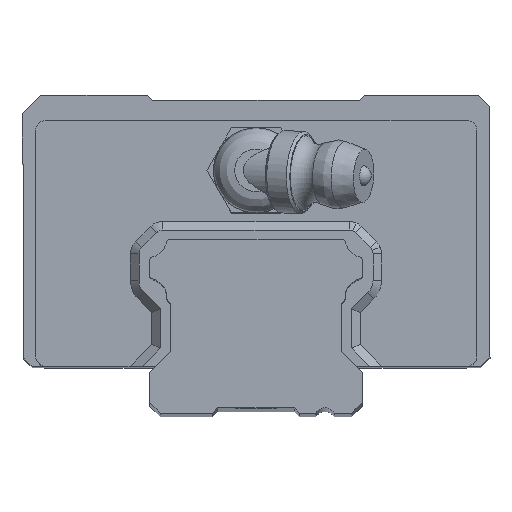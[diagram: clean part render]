
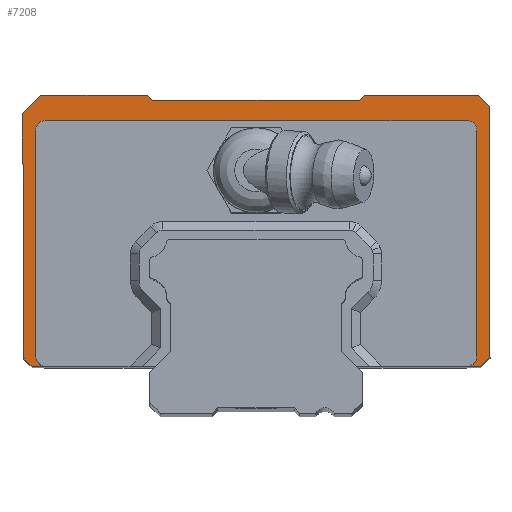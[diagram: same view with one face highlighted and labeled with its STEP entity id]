
A CAD part, top view. The second image highlights one B-rep face of the part: STEP entity #7208.
In plain terms, the highlighted planar face has unit normal (0, 0, 1).
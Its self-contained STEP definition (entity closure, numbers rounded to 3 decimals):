
#5872=CARTESIAN_POINT('',(493.991,-337.625,38.25));
#5873=VERTEX_POINT('',#5872);
#5945=CARTESIAN_POINT('',(458.875,-337.625,38.25));
#5946=VERTEX_POINT('',#5945);
#6535=CARTESIAN_POINT('',(494.859,-336.726,38.25));
#6536=VERTEX_POINT('',#6535);
#6537=CARTESIAN_POINT('',(493.959,-336.726,38.25));
#6538=DIRECTION('',(0.0,0.0,-1.));
#6539=DIRECTION('',(-1.,0.,0.0));
#6540=AXIS2_PLACEMENT_3D('',#6537,#6538,#6539);
#6541=CIRCLE('',#6540,0.9);
#6542=EDGE_CURVE('',#6536,#5873,#6541,.T.);
#6559=CARTESIAN_POINT('',(494.86,-315.426,38.25));
#6560=VERTEX_POINT('',#6559);
#6567=CARTESIAN_POINT('',(493.96,-314.526,38.25));
#6568=VERTEX_POINT('',#6567);
#6569=CARTESIAN_POINT('',(493.96,-315.426,38.25));
#6570=DIRECTION('',(0.0,0.0,-1.));
#6571=DIRECTION('',(-1.,0.,0.0));
#6572=AXIS2_PLACEMENT_3D('',#6569,#6570,#6571);
#6573=CIRCLE('',#6572,0.9);
#6574=EDGE_CURVE('',#6568,#6560,#6573,.T.);
#6591=CARTESIAN_POINT('',(454.31,-314.525,38.25));
#6592=VERTEX_POINT('',#6591);
#6599=CARTESIAN_POINT('',(453.41,-315.425,38.25));
#6600=VERTEX_POINT('',#6599);
#6601=CARTESIAN_POINT('',(454.31,-315.425,38.25));
#6602=DIRECTION('',(0.0,0.0,-1.));
#6603=DIRECTION('',(-1.,0.,0.0));
#6604=AXIS2_PLACEMENT_3D('',#6601,#6602,#6603);
#6605=CIRCLE('',#6604,0.9);
#6606=EDGE_CURVE('',#6600,#6592,#6605,.T.);
#6623=CARTESIAN_POINT('',(453.409,-336.725,38.25));
#6624=VERTEX_POINT('',#6623);
#6631=CARTESIAN_POINT('',(454.309,-337.625,38.25));
#6632=VERTEX_POINT('',#6631);
#6633=CARTESIAN_POINT('',(454.309,-336.725,38.25));
#6634=DIRECTION('',(0.0,0.0,-1.));
#6635=DIRECTION('',(-1.,0.,0.0));
#6636=AXIS2_PLACEMENT_3D('',#6633,#6634,#6635);
#6637=CIRCLE('',#6636,0.9);
#6638=EDGE_CURVE('',#6632,#6624,#6637,.T.);
#6882=CARTESIAN_POINT('',(494.86,-315.426,38.25));
#6883=DIRECTION('',(0.,-1.,0.0));
#6884=VECTOR('',#6883,21.3);
#6885=LINE('',#6882,#6884);
#6886=EDGE_CURVE('',#6560,#6536,#6885,.T.);
#6902=CARTESIAN_POINT('',(454.31,-314.525,38.25));
#6903=DIRECTION('',(1.,0.,0.));
#6904=VECTOR('',#6903,39.65);
#6905=LINE('',#6902,#6904);
#6906=EDGE_CURVE('',#6592,#6568,#6905,.T.);
#6921=CARTESIAN_POINT('',(453.409,-336.725,38.25));
#6922=DIRECTION('',(0.,1.,0.0));
#6923=VECTOR('',#6922,21.3);
#6924=LINE('',#6921,#6923);
#6925=EDGE_CURVE('',#6624,#6600,#6924,.T.);
#6948=CARTESIAN_POINT('',(458.875,-337.625,38.25));
#6949=DIRECTION('',(-1.,0.,0.));
#6950=VECTOR('',#6949,4.566);
#6951=LINE('',#6948,#6950);
#6952=EDGE_CURVE('',#5946,#6632,#6951,.T.);
#7075=CARTESIAN_POINT('',(474.109,-364.573,38.25));
#7076=DIRECTION('',(0.0,0.0,1.0));
#7077=DIRECTION('',(1.0,0.0,0.0));
#7078=AXIS2_PLACEMENT_3D('',#7075,#7076,#7077);
#7079=PLANE('',#7078);
#7080=ORIENTED_EDGE('',*,*,#6542,.T.);
#7081=CARTESIAN_POINT('',(495.259,-337.625,38.25));
#7082=VERTEX_POINT('',#7081);
#7083=CARTESIAN_POINT('',(493.991,-337.625,38.25));
#7084=DIRECTION('',(1.0,0.0,0.0));
#7085=VECTOR('',#7084,1.268);
#7086=LINE('',#7083,#7085);
#7087=EDGE_CURVE('',#5873,#7082,#7086,.T.);
#7088=ORIENTED_EDGE('',*,*,#7087,.T.);
#7089=CARTESIAN_POINT('',(496.109,-336.775,38.25));
#7090=VERTEX_POINT('',#7089);
#7091=CARTESIAN_POINT('',(495.259,-337.625,38.25));
#7092=DIRECTION('',(0.707,0.707,0.0));
#7093=VECTOR('',#7092,1.202);
#7094=LINE('',#7091,#7093);
#7095=EDGE_CURVE('',#7082,#7090,#7094,.T.);
#7096=ORIENTED_EDGE('',*,*,#7095,.T.);
#7097=CARTESIAN_POINT('',(496.109,-313.175,38.25));
#7098=VERTEX_POINT('',#7097);
#7099=CARTESIAN_POINT('',(496.109,-336.775,38.25));
#7100=DIRECTION('',(0.0,1.0,0.0));
#7101=VECTOR('',#7100,23.6);
#7102=LINE('',#7099,#7101);
#7103=EDGE_CURVE('',#7090,#7098,#7102,.T.);
#7104=ORIENTED_EDGE('',*,*,#7103,.T.);
#7105=CARTESIAN_POINT('',(495.059,-312.125,38.25));
#7106=VERTEX_POINT('',#7105);
#7107=CARTESIAN_POINT('',(496.109,-313.175,38.25));
#7108=DIRECTION('',(-0.707,0.707,0.0));
#7109=VECTOR('',#7108,1.485);
#7110=LINE('',#7107,#7109);
#7111=EDGE_CURVE('',#7098,#7106,#7110,.T.);
#7112=ORIENTED_EDGE('',*,*,#7111,.T.);
#7113=CARTESIAN_POINT('',(484.309,-312.125,38.25));
#7114=VERTEX_POINT('',#7113);
#7115=CARTESIAN_POINT('',(495.059,-312.125,38.25));
#7116=DIRECTION('',(-1.,0.,0.0));
#7117=VECTOR('',#7116,10.75);
#7118=LINE('',#7115,#7117);
#7119=EDGE_CURVE('',#7106,#7114,#7118,.T.);
#7120=ORIENTED_EDGE('',*,*,#7119,.T.);
#7121=CARTESIAN_POINT('',(483.809,-312.625,38.25));
#7122=VERTEX_POINT('',#7121);
#7123=CARTESIAN_POINT('',(483.809,-312.625,38.25));
#7124=DIRECTION('',(0.707,0.707,0.0));
#7125=VECTOR('',#7124,0.707);
#7126=LINE('',#7123,#7125);
#7127=EDGE_CURVE('',#7122,#7114,#7126,.T.);
#7128=ORIENTED_EDGE('',*,*,#7127,.F.);
#7129=CARTESIAN_POINT('',(464.409,-312.625,38.25));
#7130=VERTEX_POINT('',#7129);
#7131=CARTESIAN_POINT('',(483.809,-312.625,38.25));
#7132=DIRECTION('',(-1.,0.,0.0));
#7133=VECTOR('',#7132,19.4);
#7134=LINE('',#7131,#7133);
#7135=EDGE_CURVE('',#7122,#7130,#7134,.T.);
#7136=ORIENTED_EDGE('',*,*,#7135,.T.);
#7137=CARTESIAN_POINT('',(463.909,-312.125,38.25));
#7138=VERTEX_POINT('',#7137);
#7139=CARTESIAN_POINT('',(464.409,-312.625,38.25));
#7140=DIRECTION('',(-0.707,0.707,0.0));
#7141=VECTOR('',#7140,0.707);
#7142=LINE('',#7139,#7141);
#7143=EDGE_CURVE('',#7130,#7138,#7142,.T.);
#7144=ORIENTED_EDGE('',*,*,#7143,.T.);
#7145=CARTESIAN_POINT('',(453.859,-312.125,38.25));
#7146=VERTEX_POINT('',#7145);
#7147=CARTESIAN_POINT('',(463.909,-312.125,38.25));
#7148=DIRECTION('',(-1.,0.,0.0));
#7149=VECTOR('',#7148,10.05);
#7150=LINE('',#7147,#7149);
#7151=EDGE_CURVE('',#7138,#7146,#7150,.T.);
#7152=ORIENTED_EDGE('',*,*,#7151,.T.);
#7153=CARTESIAN_POINT('',(452.109,-313.875,38.25));
#7154=VERTEX_POINT('',#7153);
#7155=CARTESIAN_POINT('',(453.859,-312.125,38.25));
#7156=DIRECTION('',(-0.707,-0.707,0.0));
#7157=VECTOR('',#7156,2.475);
#7158=LINE('',#7155,#7157);
#7159=EDGE_CURVE('',#7146,#7154,#7158,.T.);
#7160=ORIENTED_EDGE('',*,*,#7159,.T.);
#7161=CARTESIAN_POINT('',(452.109,-318.525,38.25));
#7162=VERTEX_POINT('',#7161);
#7163=CARTESIAN_POINT('',(452.109,-313.875,38.25));
#7164=DIRECTION('',(0.0,-1.0,0.0));
#7165=VECTOR('',#7164,4.65);
#7166=LINE('',#7163,#7165);
#7167=EDGE_CURVE('',#7154,#7162,#7166,.T.);
#7168=ORIENTED_EDGE('',*,*,#7167,.T.);
#7169=CARTESIAN_POINT('',(452.259,-318.675,38.25));
#7170=VERTEX_POINT('',#7169);
#7171=CARTESIAN_POINT('',(452.259,-318.675,38.25));
#7172=DIRECTION('',(-0.707,0.707,0.0));
#7173=VECTOR('',#7172,0.212);
#7174=LINE('',#7171,#7173);
#7175=EDGE_CURVE('',#7170,#7162,#7174,.T.);
#7176=ORIENTED_EDGE('',*,*,#7175,.F.);
#7177=CARTESIAN_POINT('',(452.259,-336.825,38.25));
#7178=VERTEX_POINT('',#7177);
#7179=CARTESIAN_POINT('',(452.259,-318.675,38.25));
#7180=DIRECTION('',(0.0,-1.0,0.0));
#7181=VECTOR('',#7180,18.15);
#7182=LINE('',#7179,#7181);
#7183=EDGE_CURVE('',#7170,#7178,#7182,.T.);
#7184=ORIENTED_EDGE('',*,*,#7183,.T.);
#7185=CARTESIAN_POINT('',(453.059,-337.625,38.25));
#7186=VERTEX_POINT('',#7185);
#7187=CARTESIAN_POINT('',(452.259,-336.825,38.25));
#7188=DIRECTION('',(0.707,-0.707,0.0));
#7189=VECTOR('',#7188,1.131);
#7190=LINE('',#7187,#7189);
#7191=EDGE_CURVE('',#7178,#7186,#7190,.T.);
#7192=ORIENTED_EDGE('',*,*,#7191,.T.);
#7193=CARTESIAN_POINT('',(453.059,-337.625,38.25));
#7194=DIRECTION('',(1.,0.,0.));
#7195=VECTOR('',#7194,5.816);
#7196=LINE('',#7193,#7195);
#7197=EDGE_CURVE('',#7186,#5946,#7196,.T.);
#7198=ORIENTED_EDGE('',*,*,#7197,.T.);
#7199=ORIENTED_EDGE('',*,*,#6952,.T.);
#7200=ORIENTED_EDGE('',*,*,#6638,.T.);
#7201=ORIENTED_EDGE('',*,*,#6925,.T.);
#7202=ORIENTED_EDGE('',*,*,#6606,.T.);
#7203=ORIENTED_EDGE('',*,*,#6906,.T.);
#7204=ORIENTED_EDGE('',*,*,#6574,.T.);
#7205=ORIENTED_EDGE('',*,*,#6886,.T.);
#7206=EDGE_LOOP('',(#7080,#7088,#7096,#7104,#7112,#7120,#7128,#7136,#7144,#7152,#7160,#7168,#7176,#7184,#7192,#7198,#7199,#7200,#7201,#7202,#7203,#7204,#7205));
#7207=FACE_OUTER_BOUND('',#7206,.T.);
#7208=ADVANCED_FACE('',(#7207),#7079,.T.);
